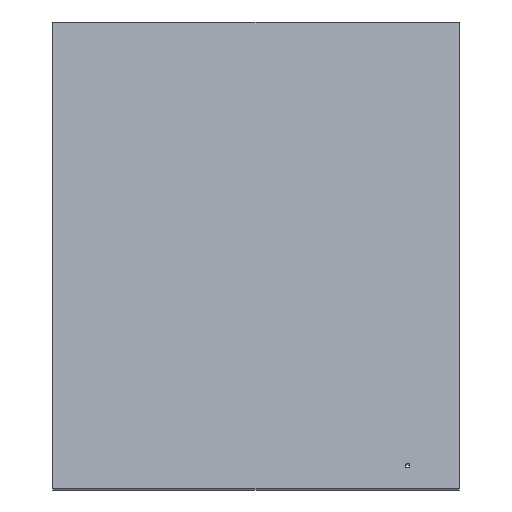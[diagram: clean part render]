
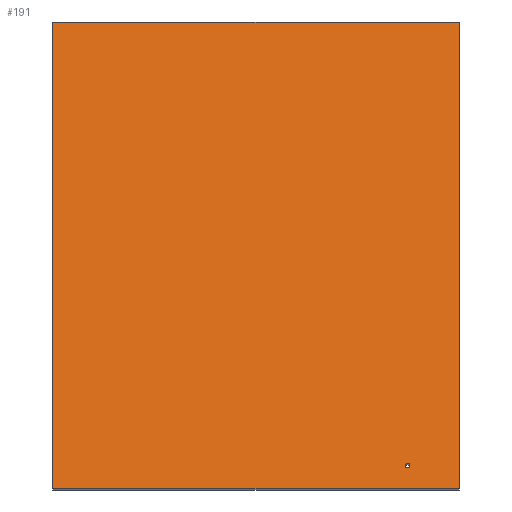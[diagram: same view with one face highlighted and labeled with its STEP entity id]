
A CAD part, front view. The second image highlights one B-rep face of the part: STEP entity #191.
In plain terms, the highlighted planar face has unit normal (0, -0.985, 0.174).
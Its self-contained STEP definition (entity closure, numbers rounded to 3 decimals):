
#37=CARTESIAN_POINT('',(548.114,11.481,244.515));
#38=VERTEX_POINT('',#37);
#45=CARTESIAN_POINT('',(-617.,11.481,244.515));
#46=VERTEX_POINT('',#45);
#47=CARTESIAN_POINT('',(-617.,11.481,244.515));
#48=DIRECTION('',(1.0,0.0,0.0));
#49=VECTOR('',#48,1.);
#50=LINE('',#47,#49);
#51=EDGE_CURVE('',#46,#38,#50,.T.);
#75=CARTESIAN_POINT('',(548.114,247.122,1580.899));
#76=VERTEX_POINT('',#75);
#83=CARTESIAN_POINT('',(548.114,11.481,244.515));
#84=DIRECTION('',(0.,0.174,0.985));
#85=VECTOR('',#84,1.);
#86=LINE('',#83,#85);
#87=EDGE_CURVE('',#38,#76,#86,.T.);
#106=CARTESIAN_POINT('',(-617.,247.122,1580.899));
#107=VERTEX_POINT('',#106);
#114=CARTESIAN_POINT('',(548.114,247.122,1580.899));
#115=DIRECTION('',(-1.0,0.,0.));
#116=VECTOR('',#115,1.);
#117=LINE('',#114,#116);
#118=EDGE_CURVE('',#76,#107,#117,.T.);
#136=CARTESIAN_POINT('',(-617.,247.122,1580.899));
#137=DIRECTION('',(0.,-0.174,-0.985));
#138=VECTOR('',#137,1.);
#139=LINE('',#136,#138);
#140=EDGE_CURVE('',#107,#46,#139,.T.);
#169=CARTESIAN_POINT('',(-617.,11.481,244.515));
#170=DIRECTION('',(0.0,-0.985,0.174));
#171=DIRECTION('',(1.0,0.0,0.0));
#172=AXIS2_PLACEMENT_3D('',#169,#170,#171);
#173=PLANE('',#172);
#174=ORIENTED_EDGE('',*,*,#51,.T.);
#175=ORIENTED_EDGE('',*,*,#87,.T.);
#176=ORIENTED_EDGE('',*,*,#118,.T.);
#177=ORIENTED_EDGE('',*,*,#140,.T.);
#178=EDGE_LOOP('',(#174,#175,#176,#177));
#179=FACE_OUTER_BOUND('',#178,.T.);
#180=CARTESIAN_POINT('',(406.5,23.029,310.004));
#181=VERTEX_POINT('',#180);
#182=CARTESIAN_POINT('',(400.,23.029,310.004));
#183=DIRECTION('',(0.0,0.985,-0.174));
#184=DIRECTION('',(1.0,0.0,0.0));
#185=AXIS2_PLACEMENT_3D('',#182,#183,#184);
#186=CIRCLE('',#185,6.5);
#187=EDGE_CURVE('',#181,#181,#186,.T.);
#188=ORIENTED_EDGE('',*,*,#187,.T.);
#189=EDGE_LOOP('',(#188));
#190=FACE_BOUND('',#189,.T.);
#191=ADVANCED_FACE('',(#179,#190),#173,.T.);
